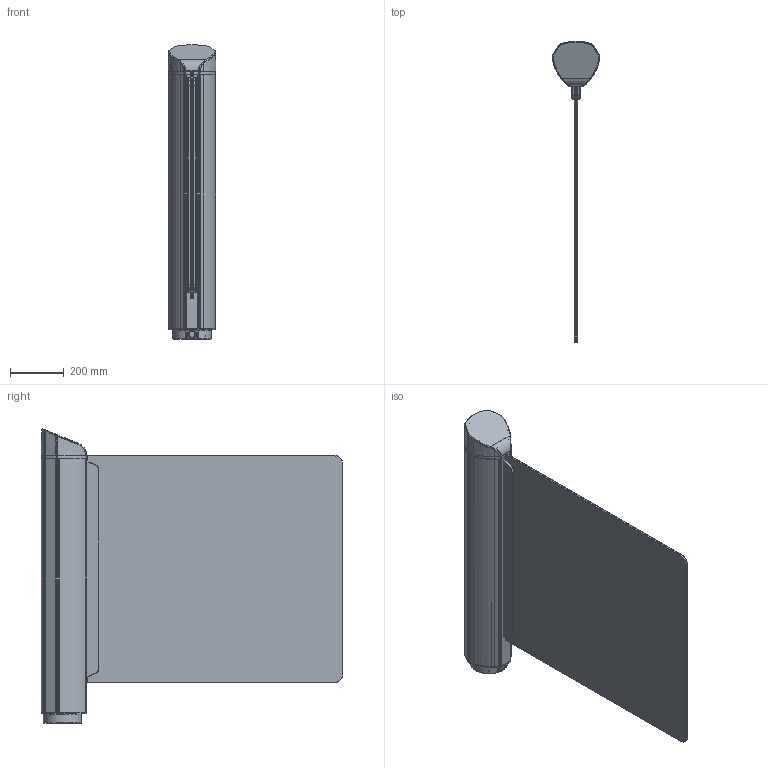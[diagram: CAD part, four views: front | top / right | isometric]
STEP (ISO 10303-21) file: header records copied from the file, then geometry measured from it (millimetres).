
FILE_DESCRIPTION(/* description */ ('Unknown'),/* implementation_level */ '2;1');
FILE_NAME(/* name */ '55870002_02',/* time_stamp */ '2023-12-04T07:31:59+01:00',/* author */ ('Unknown'),/* organization */ ('Unknown'),/* preprocessor_version */ 'ST-DEVELOPER v18.104',/* originating_system */ 'Solid Edge',/* authorisation */ 'Unknown');
FILE_SCHEMA (('AUTOMOTIVE_DESIGN {1 0 10303 214 3 1 1}'));
Length unit declared in the file: millimetre
Products named in the file (18): 55870002; StaenderKpl_oa_0; 20250075; 20410108; RJ45-Abdeckung-HARTING-MD_09455020000_har_port_protection_cover; 20250073; 20250074; 20250096; DeckelKpl_oa_1; Abdeckhaube; SchwenkrohrKpl_oa_2; 20490304; 20250118; 20250112-NEU; 34905053; 20160201; 20290238; 20290243
Assembly tree (22 placements, depth 3):
  55870002
    StaenderKpl_oa_0
      20250075
      20410108
      RJ45-Abdeckung-HARTING-MD_09455020000_har_port_protection_cover
      20250073
      20250074
      20250096
    DeckelKpl_oa_1
      Abdeckhaube
    SchwenkrohrKpl_oa_2
      20490304
      20250118
      20250112-NEU
      34905053  x6
    20160201
    20290238
    20290243
Bounding box: 177.66 x 1119 x 1092.69 mm (x, y, z)
Volume: 12030384 mm3; surface area: 3306665.3 mm2
Topology: 19 solids, 19 shells, 1197 faces, 3228 edges, 2044 vertices
Faces by surface type: cylinder 507, plane 477, cone 110, torus 39, bspline 34, sphere 30
Full cylindrical faces by diameter (mm): 1.2 x1, 4 x2, 4.134 x6, 4.5 x4, 4.773 x6, 4.917 x46, 6 x12, 6.5 x12, 6.6 x16, 9 x4, 12 x14, 15 x4, 25.7 x1, 28.1 x2, 28.5 x2, 28.7 x1, 30.2 x1, 45 x1, 53 x1, 95 x1, 118 x1, 120 x3, 140 x1, 143 x1, 145.5 x1, 147 x2, 148 x1, 148.5 x2
Entity records: 40034 total; most frequent: CARTESIAN_POINT 9227, DIRECTION 5189, ORIENTED_EDGE 5164, EDGE_CURVE 2582, AXIS2_PLACEMENT_3D 1963, VERTEX_POINT 1744, FACE_BOUND 1392, EDGE_LOOP 1376
